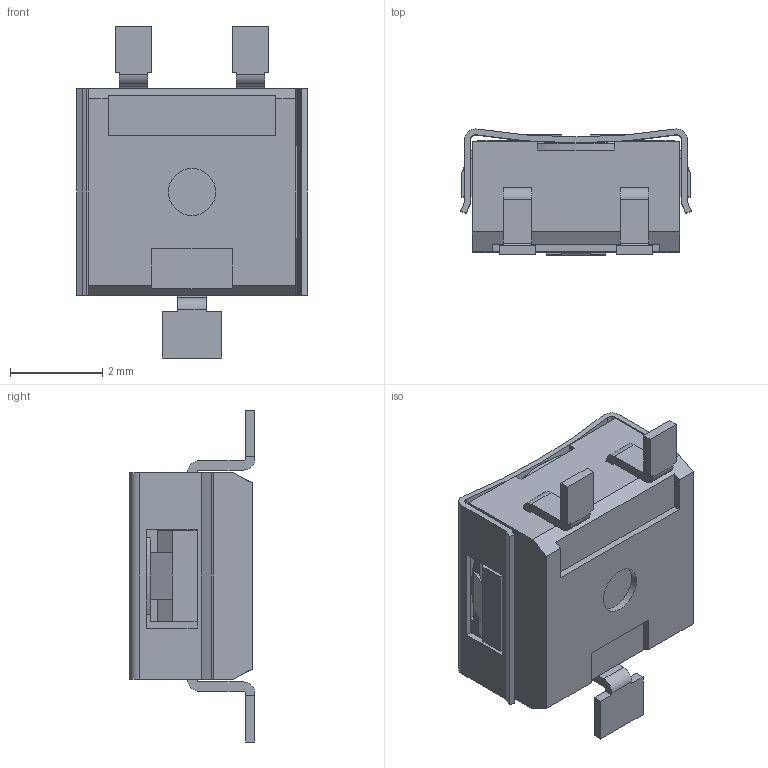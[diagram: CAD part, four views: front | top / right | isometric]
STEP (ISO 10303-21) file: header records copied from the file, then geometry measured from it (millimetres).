
FILE_DESCRIPTION(/* description */ ('Unknown'),/* implementation_level */ '2;1');
FILE_NAME(/* name */ 'TS4YL - VISHAY',/* time_stamp */ '2018-05-25T16:44:51+02:00',/* author */ ('Unknown'),/* organization */ ('Unknown'),/* preprocessor_version */ 'ST-DEVELOPER v16.7',/* originating_system */ 'DEX',/* authorisation */ $);
FILE_SCHEMA (('AUTOMOTIVE_DESIGN {1 0 10303 214 3 1 1}'));
Length unit declared in the file: millimetre
Products named in the file (1): TS4YL - VISHAY
Bounding box: 5 x 2.73 x 7.2 mm (x, y, z)
Volume: 52.6 mm3; surface area: 151.3 mm2
Topology: 1 solids, 1 shells, 331 faces, 882 edges, 578 vertices
Faces by surface type: plane 235, cylinder 64, bspline 24, cone 8
Full cylindrical faces by diameter (mm): 0.254 x2, 1.016 x1, 2.464 x1
Entity records: 13338 total; most frequent: CARTESIAN_POINT 2892, ORIENTED_EDGE 1754, DIRECTION 1523, EDGE_CURVE 877, LINE 651, VECTOR 651, VERTEX_POINT 577, AXIS2_PLACEMENT_3D 436
